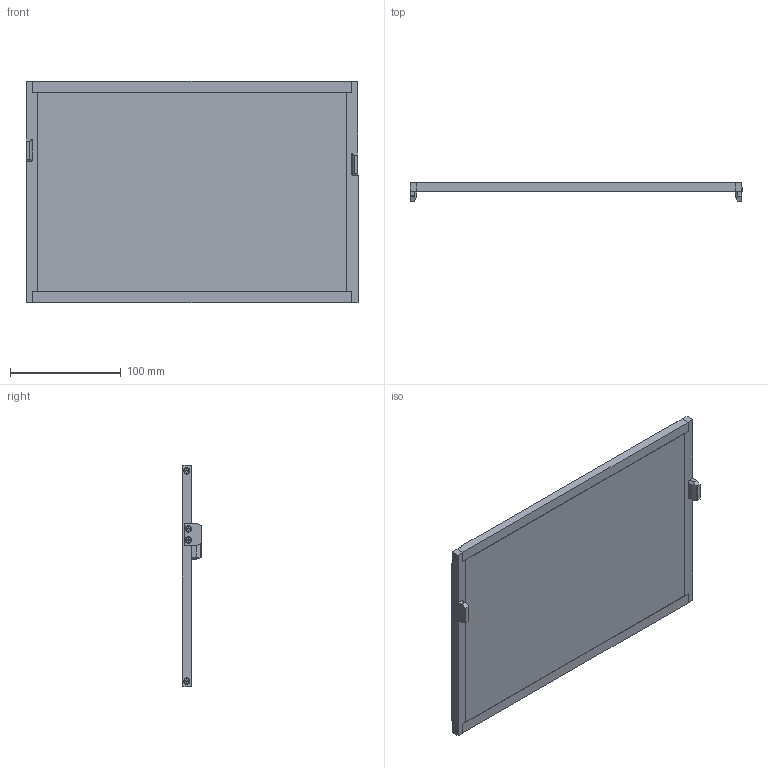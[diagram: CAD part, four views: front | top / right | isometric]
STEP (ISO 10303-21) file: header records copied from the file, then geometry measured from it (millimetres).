
FILE_DESCRIPTION (( 'STEP AP203' ), '1' );
FILE_NAME ('VT02301.STEP', '2016-07-12T07:32:01', ( '' ), ( '' ), 'SwSTEP 2.0', 'SolidWorks 2016', '' );
FILE_SCHEMA (( 'CONFIG_CONTROL_DESIGN' ));
Length unit declared in the file: millimetre
Products named in the file (1): VT02301
Bounding box: 299.75 x 17.5 x 199.75 mm (x, y, z)
Volume: 445552.8 mm3; surface area: 146713.2 mm2
Topology: 15 solids, 15 shells, 378 faces, 880 edges, 536 vertices
Faces by surface type: plane 216, cylinder 90, cone 40, bspline 32
Entity records: 11441 total; most frequent: CARTESIAN_POINT 2867, DIRECTION 1782, ORIENTED_EDGE 1712, EDGE_CURVE 856, AXIS2_PLACEMENT_3D 619, LINE 544, VECTOR 544, VERTEX_POINT 536
